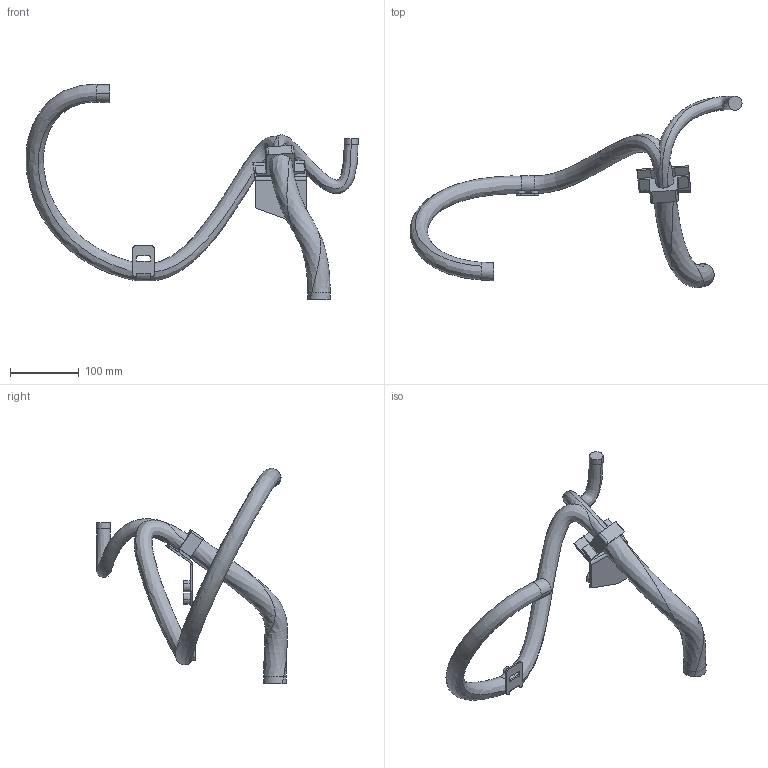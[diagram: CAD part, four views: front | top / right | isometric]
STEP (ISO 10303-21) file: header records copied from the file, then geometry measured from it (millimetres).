
FILE_DESCRIPTION (( 'STEP AP214' ), '1' );
FILE_NAME ('IRB7710_All_OC_00_LINK3m_CABLE.STEP', '2023-10-02T08:57:09', ( '' ), ( '' ), 'SwSTEP 2.0', 'SolidWorks 2022', '' );
FILE_SCHEMA (( 'AUTOMOTIVE_DESIGN' ));
Length unit declared in the file: millimetre
Products named in the file (1): IRB7710_All_OC_00_LINK3m_CABLE
Bounding box: 482.71 x 278.1 x 313.03 mm (x, y, z)
Volume: 768642.1 mm3; surface area: 128497.6 mm2
Topology: 1 solids, 1 shells, 95 faces, 249 edges, 162 vertices
Faces by surface type: plane 51, cylinder 32, bspline 12
Entity records: 8410 total; most frequent: CARTESIAN_POINT 5849, ORIENTED_EDGE 498, DIRECTION 458, EDGE_CURVE 249, VERTEX_POINT 162, AXIS2_PLACEMENT_3D 158, LINE 142, VECTOR 142
